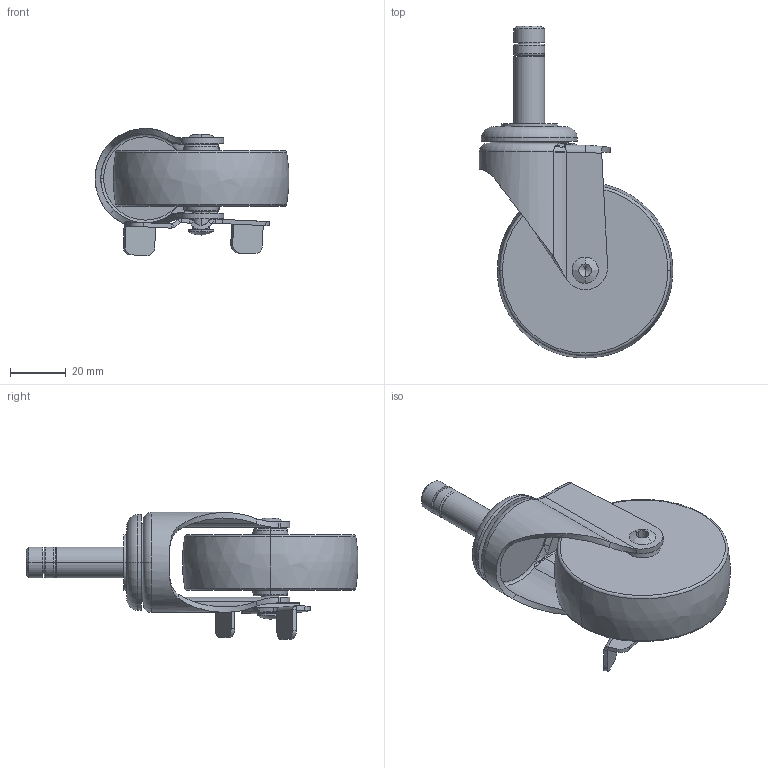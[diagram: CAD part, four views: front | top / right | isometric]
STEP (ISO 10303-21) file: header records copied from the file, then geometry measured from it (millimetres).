
FILE_DESCRIPTION((''),'2;1');
FILE_NAME('261215A-2615-83_ASM','2019-12-15T',('L'),(''),'PRO/ENGINEER BY PARAMETRIC TECHNOLOGY CORPORATION, 2010280','PRO/ENGINEER BY PARAMETRIC TECHNOLOGY CORPORATION, 2010280','');
FILE_SCHEMA(('CONFIG_CONTROL_DESIGN'));
Length unit declared in the file: millimetre
Products named in the file (5): 261525; 2625-83; 2610-501; 2610-012; 261215A-2615-83_ASM
Assembly tree (4 placements, depth 2):
  261215A-2615-83_ASM
    261525
    2625-83
    2610-501
    2610-012
Bounding box: 69.34 x 118.9 x 45.57 mm (x, y, z)
Volume: 79891.9 mm3; surface area: 25637.4 mm2
Topology: 4 solids, 4 shells, 212 faces, 470 edges, 270 vertices
Faces by surface type: cylinder 68, plane 61, bspline 41, torus 24, cone 16, sphere 2
Entity records: 7709 total; most frequent: CARTESIAN_POINT 3114, DIRECTION 938, ORIENTED_EDGE 924, EDGE_CURVE 462, AXIS2_PLACEMENT_3D 376, VERTEX_POINT 270, EDGE_LOOP 232, FACE_OUTER_BOUND 212
